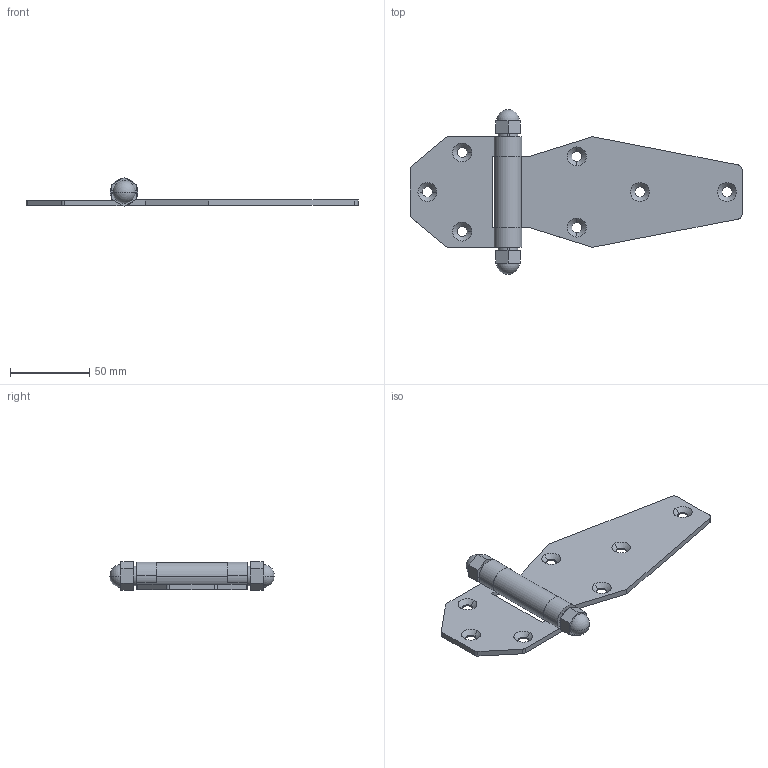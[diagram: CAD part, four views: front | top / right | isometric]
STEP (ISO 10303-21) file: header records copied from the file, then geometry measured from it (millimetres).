
FILE_DESCRIPTION (( 'STEP AP203' ), '1' );
FILE_NAME ('XG02-129-2.STEP', '2023-12-22T10:13:36', ( '' ), ( '' ), 'SwSTEP 2.0', 'SolidWorks 2020', '' );
FILE_SCHEMA (( 'CONFIG_CONTROL_DESIGN' ));
Length unit declared in the file: millimetre
Products named in the file (1): XG02-129-2
Bounding box: 210 x 104.36 x 18 mm (x, y, z)
Volume: 57507.2 mm3; surface area: 36185.2 mm2
Topology: 7 solids, 7 shells, 127 faces, 313 edges, 202 vertices
Faces by surface type: cylinder 53, plane 52, cone 18, sphere 4
Entity records: 3836 total; most frequent: DIRECTION 689, CARTESIAN_POINT 659, ORIENTED_EDGE 614, EDGE_CURVE 307, AXIS2_PLACEMENT_3D 262, VERTEX_POINT 200, VECTOR 165, LINE 165
